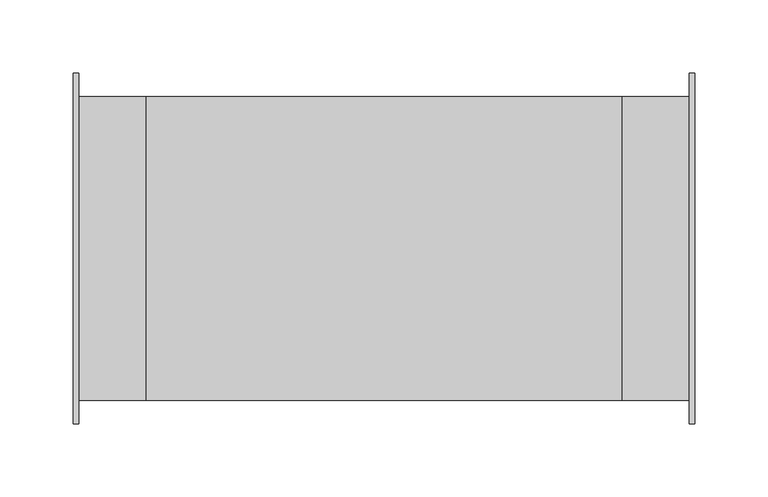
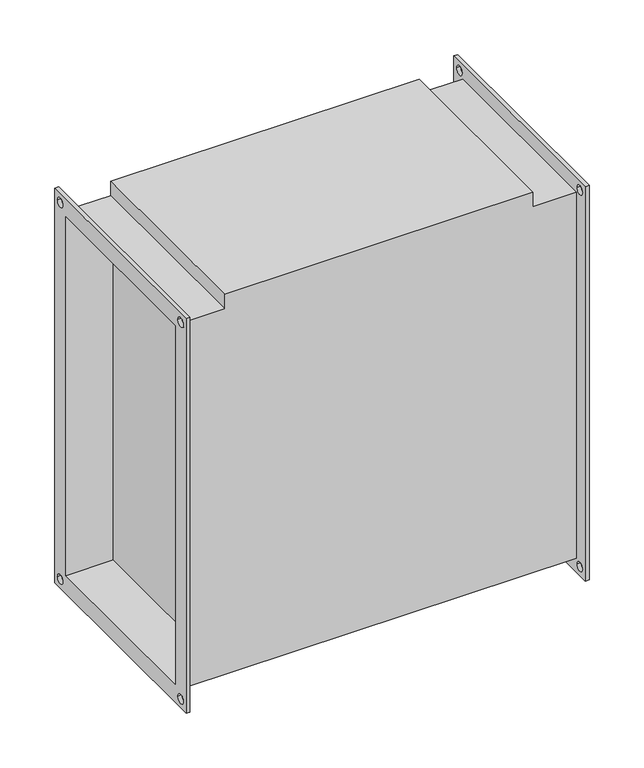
"""IFC4 building model written with IfcOpenShell, lengths in millimetres: proxy geometry, СВ_ВоздухонагревательЭлектрический_КанальныйПрямоугольный_200-1000_SPH-E : SPH-E-400x200/12."""

from ifc_helpers import new_model, si_unit, frame, origin, place, context, project, spatial, polyline, circle_curve, source, transform, mapped, element, save
from ifc_brep_helpers import plane_surface, revolved_surface, advanced_brep


def mechanical_equipment_13f1d598(model_context):
    return source(origin(), model_context, "Body", "AdvancedBrep", [
        advanced_brep(
        [(-162.5, -104.0, 204.0), (-208.5, -104.0, 204.0), (-208.5, -104.0, -204.0), (208.5, -104.0, -204.0), (208.5, -104.0, 204.0), (162.5, -104.0, 204.0), (162.5, -104.0, 220.0), (-162.5, -104.0, 220.0), (-208.5, 104.0, -204.0), (208.5, 104.0, -204.0), (-208.5, 104.0, 204.0), (-162.5, 104.0, 204.0), (-162.5, 104.0, 220.0), (162.5, 104.0, 220.0), (162.5, 104.0, 204.0), (208.5, 104.0, 204.0), (162.5, 100.0, -200.0), (162.5, 100.0, 200.0), (162.5, -100.0, 200.0), (162.5, -100.0, -200.0), (-162.5, -100.0, 200.0), (-162.5, 100.0, 200.0), (-162.5, 100.0, -200.0), (-162.5, -100.0, -200.0), (-212.5, -120.0, 220.0), (-212.5, 120.0, 220.0), (-212.5, 120.0, -220.0), (-212.5, -120.0, -220.0), (-212.5, -100.0, 200.0), (-212.5, -100.0, -200.0), (-212.5, 100.0, -200.0), (-212.5, 100.0, 200.0), (-212.5, 105.0, 210.0), (-212.5, 115.0, 210.0), (-212.5, -115.0, 210.0), (-212.5, -105.0, 210.0), (-212.5, -115.0, -210.0), (-212.5, -105.0, -210.0), (-212.5, 105.0, -210.0), (-212.5, 115.0, -210.0), (-208.5, -120.0, 220.0), (-208.5, -120.0, -220.0), (-208.5, 120.0, -220.0), (-208.5, 120.0, 220.0), (-208.5, 115.0, 210.0), (-208.5, 105.0, 210.0), (-208.5, -105.0, 210.0), (-208.5, -115.0, 210.0), (-208.5, -105.0, -210.0), (-208.5, -115.0, -210.0), (-208.5, 115.0, -210.0), (-208.5, 105.0, -210.0), (208.5, 120.0, 220.0), (208.5, 120.0, -220.0), (208.5, -120.0, -220.0), (208.5, -120.0, 220.0), (208.5, 105.0, 210.0), (208.5, 115.0, 210.0), (208.5, -115.0, 210.0), (208.5, -105.0, 210.0), (208.5, -115.0, -210.0), (208.5, -105.0, -210.0), (208.5, 105.0, -210.0), (208.5, 115.0, -210.0), (212.5, 120.0, 220.0), (212.5, -120.0, 220.0), (212.5, -120.0, -220.0), (212.5, 120.0, -220.0), (212.5, 100.0, 200.0), (212.5, 100.0, -200.0), (212.5, -100.0, -200.0), (212.5, -100.0, 200.0), (212.5, 115.0, 210.0), (212.5, 105.0, 210.0), (212.5, -105.0, 210.0), (212.5, -115.0, 210.0), (212.5, -105.0, -210.0), (212.5, -115.0, -210.0), (212.5, 115.0, -210.0), (212.5, 105.0, -210.0)],
        [
            (0, 1),
            (1, 2),
            (2, 3),
            (3, 4),
            (4, 5),
            (5, 6),
            (6, 7),
            (7, 0),
            (2, 8),
            (8, 9),
            (9, 3),
            (10, 11),
            (11, 12),
            (12, 13),
            (13, 14),
            (14, 15),
            (15, 9),
            (8, 10),
            (0, 11),
            (10, 1),
            (13, 6),
            (5, 14),
            (16, 17),
            (17, 18),
            (18, 19),
            (19, 16),
            (7, 12),
            (20, 21),
            (21, 22),
            (22, 23),
            (23, 20),
            (4, 15),
            (24, 25),
            (25, 26),
            (26, 27),
            (27, 24),
            (28, 29),
            (29, 30),
            (30, 31),
            (31, 28),
            (32, 33, circle_curve(frame((-212.5, 110.0, 210.0), z_axis=(1.0, 0.0, 0.0), x_axis=(0.0, 1.0, 0.0)), 5.0)),
            (33, 32, circle_curve(frame((-212.5, 110.0, 210.0), z_axis=(1.0, 0.0, 0.0), x_axis=(0.0, 1.0, 0.0)), 5.0)),
            (34, 35, circle_curve(frame((-212.5, -110.0, 210.0), z_axis=(1.0, 0.0, 0.0), x_axis=(0.0, 1.0, 0.0)), 5.0)),
            (35, 34, circle_curve(frame((-212.5, -110.0, 210.0), z_axis=(1.0, 0.0, 0.0), x_axis=(0.0, 1.0, 0.0)), 5.0)),
            (36, 37, circle_curve(frame((-212.5, -110.0, -210.0), z_axis=(1.0, 0.0, 0.0), x_axis=(0.0, 1.0, 0.0)), 5.0)),
            (37, 36, circle_curve(frame((-212.5, -110.0, -210.0), z_axis=(1.0, 0.0, 0.0), x_axis=(0.0, 1.0, 0.0)), 5.0)),
            (38, 39, circle_curve(frame((-212.5, 110.0, -210.0), z_axis=(1.0, 0.0, 0.0), x_axis=(0.0, 1.0, 0.0)), 5.0)),
            (39, 38, circle_curve(frame((-212.5, 110.0, -210.0), z_axis=(1.0, 0.0, 0.0), x_axis=(0.0, 1.0, 0.0)), 5.0)),
            (40, 41),
            (41, 42),
            (42, 43),
            (43, 40),
            (44, 45, circle_curve(frame((-208.5, 110.0, 210.0), z_axis=(-1.0, 0.0, 0.0), x_axis=(0.0, 1.0, 0.0)), 5.0)),
            (45, 44, circle_curve(frame((-208.5, 110.0, 210.0), z_axis=(-1.0, 0.0, 0.0), x_axis=(0.0, 1.0, 0.0)), 5.0)),
            (46, 47, circle_curve(frame((-208.5, -110.0, 210.0), z_axis=(-1.0, 0.0, 0.0), x_axis=(0.0, 1.0, 0.0)), 5.0)),
            (47, 46, circle_curve(frame((-208.5, -110.0, 210.0), z_axis=(-1.0, 0.0, 0.0), x_axis=(0.0, 1.0, 0.0)), 5.0)),
            (48, 49, circle_curve(frame((-208.5, -110.0, -210.0), z_axis=(-1.0, 0.0, 0.0), x_axis=(0.0, 1.0, 0.0)), 5.0)),
            (49, 48, circle_curve(frame((-208.5, -110.0, -210.0), z_axis=(-1.0, 0.0, 0.0), x_axis=(0.0, 1.0, 0.0)), 5.0)),
            (50, 51, circle_curve(frame((-208.5, 110.0, -210.0), z_axis=(-1.0, 0.0, 0.0), x_axis=(0.0, 1.0, 0.0)), 5.0)),
            (51, 50, circle_curve(frame((-208.5, 110.0, -210.0), z_axis=(-1.0, 0.0, 0.0), x_axis=(0.0, 1.0, 0.0)), 5.0)),
            (27, 41),
            (40, 24),
            (26, 42),
            (25, 43),
            (52, 53),
            (53, 54),
            (54, 55),
            (55, 52),
            (56, 57, circle_curve(frame((208.5, 110.0, 210.0), z_axis=(1.0, 0.0, 0.0), x_axis=(0.0, 1.0, 0.0)), 5.0)),
            (57, 56, circle_curve(frame((208.5, 110.0, 210.0), z_axis=(1.0, 0.0, 0.0), x_axis=(0.0, 1.0, 0.0)), 5.0)),
            (58, 59, circle_curve(frame((208.5, -110.0, 210.0), z_axis=(1.0, 0.0, 0.0), x_axis=(0.0, 1.0, 0.0)), 5.0)),
            (59, 58, circle_curve(frame((208.5, -110.0, 210.0), z_axis=(1.0, 0.0, 0.0), x_axis=(0.0, 1.0, 0.0)), 5.0)),
            (60, 61, circle_curve(frame((208.5, -110.0, -210.0), z_axis=(1.0, 0.0, 0.0), x_axis=(0.0, 1.0, 0.0)), 5.0)),
            (61, 60, circle_curve(frame((208.5, -110.0, -210.0), z_axis=(1.0, 0.0, 0.0), x_axis=(0.0, 1.0, 0.0)), 5.0)),
            (62, 63, circle_curve(frame((208.5, 110.0, -210.0), z_axis=(1.0, 0.0, 0.0), x_axis=(0.0, 1.0, 0.0)), 5.0)),
            (63, 62, circle_curve(frame((208.5, 110.0, -210.0), z_axis=(1.0, 0.0, 0.0), x_axis=(0.0, 1.0, 0.0)), 5.0)),
            (64, 65),
            (65, 66),
            (66, 67),
            (67, 64),
            (68, 69),
            (69, 70),
            (70, 71),
            (71, 68),
            (72, 73, circle_curve(frame((212.5, 110.0, 210.0), z_axis=(-1.0, 0.0, 0.0), x_axis=(0.0, 1.0, 0.0)), 5.0)),
            (73, 72, circle_curve(frame((212.5, 110.0, 210.0), z_axis=(-1.0, 0.0, 0.0), x_axis=(0.0, 1.0, 0.0)), 5.0)),
            (74, 75, circle_curve(frame((212.5, -110.0, 210.0), z_axis=(-1.0, 0.0, 0.0), x_axis=(0.0, 1.0, 0.0)), 5.0)),
            (75, 74, circle_curve(frame((212.5, -110.0, 210.0), z_axis=(-1.0, 0.0, 0.0), x_axis=(0.0, 1.0, 0.0)), 5.0)),
            (76, 77, circle_curve(frame((212.5, -110.0, -210.0), z_axis=(-1.0, 0.0, 0.0), x_axis=(0.0, 1.0, 0.0)), 5.0)),
            (77, 76, circle_curve(frame((212.5, -110.0, -210.0), z_axis=(-1.0, 0.0, 0.0), x_axis=(0.0, 1.0, 0.0)), 5.0)),
            (78, 79, circle_curve(frame((212.5, 110.0, -210.0), z_axis=(-1.0, 0.0, 0.0), x_axis=(0.0, 1.0, 0.0)), 5.0)),
            (79, 78, circle_curve(frame((212.5, 110.0, -210.0), z_axis=(-1.0, 0.0, 0.0), x_axis=(0.0, 1.0, 0.0)), 5.0)),
            (55, 65),
            (64, 52),
            (54, 66),
            (53, 67),
            (31, 21),
            (20, 28),
            (30, 22),
            (29, 23),
            (68, 17),
            (16, 69),
            (19, 70),
            (18, 71),
            (32, 45),
            (44, 33),
            (56, 73),
            (72, 57),
            (34, 47),
            (46, 35),
            (58, 75),
            (74, 59),
            (36, 49),
            (48, 37),
            (60, 77),
            (76, 61),
            (38, 51),
            (50, 39),
            (62, 79),
            (78, 63),
        ],
        [
            plane_surface(frame((-162.5, -104.0, 204.0), z_axis=(0.0, -1.0, 0.0), x_axis=(-1.0, 0.0, 0.0))),
            plane_surface(frame((-162.5, -104.0, -204.0), z_axis=(0.0, 0.0, -1.0), x_axis=(-1.0, 0.0, 0.0))),
            plane_surface(frame((-162.5, 104.0, -204.0), z_axis=(0.0, 1.0, 0.0), x_axis=(-1.0, 0.0, 0.0))),
            plane_surface(frame((-162.5, 104.0, 204.0), z_axis=(0.0, 0.0, 1.0), x_axis=(-1.0, 0.0, 0.0))),
            plane_surface(frame((162.5, -104.0, 220.0), z_axis=(1.0, 0.0, 0.0), x_axis=(0.0, 0.0, -1.0))),
            plane_surface(frame((-162.5, -104.0, 220.0), z_axis=(-1.0, 0.0, 0.0), x_axis=(0.0, 0.0, 1.0))),
            plane_surface(frame((162.5, 104.0, 220.0), z_axis=(0.0, 0.0, 1.0), x_axis=(-1.0, 0.0, 0.0))),
            plane_surface(frame((208.5, 104.0, 204.0), z_axis=(0.0, 0.0, 1.0), x_axis=(-1.0, 0.0, 0.0))),
            plane_surface(frame((-212.5, -120.0, 220.0), z_axis=(-1.0, 0.0, 0.0), x_axis=(0.0, 0.0, 1.0))),
            plane_surface(frame((-208.5, -120.0, 220.0), z_axis=(1.0, 0.0, 0.0), x_axis=(0.0, 0.0, -1.0))),
            plane_surface(frame((-208.5, -120.0, 220.0), z_axis=(0.0, -1.0, 0.0), x_axis=(-1.0, 0.0, 0.0))),
            plane_surface(frame((-208.5, -120.0, -220.0), z_axis=(0.0, 0.0, -1.0), x_axis=(-1.0, 0.0, 0.0))),
            plane_surface(frame((-208.5, 120.0, -220.0), z_axis=(0.0, 1.0, 0.0), x_axis=(-1.0, 0.0, 0.0))),
            plane_surface(frame((-208.5, 120.0, 220.0), z_axis=(0.0, 0.0, 1.0), x_axis=(-1.0, 0.0, 0.0))),
            plane_surface(frame((208.5, 100.0, -200.0), z_axis=(-1.0, 0.0, 0.0), x_axis=(0.0, 0.0, 1.0))),
            plane_surface(frame((212.5, 100.0, -200.0), z_axis=(1.0, 0.0, 0.0), x_axis=(0.0, 0.0, -1.0))),
            plane_surface(frame((212.5, 120.0, 220.0), z_axis=(0.0, 0.0, 1.0), x_axis=(-1.0, 0.0, 0.0))),
            plane_surface(frame((212.5, -120.0, 220.0), z_axis=(0.0, -1.0, 0.0), x_axis=(-1.0, 0.0, 0.0))),
            plane_surface(frame((212.5, -120.0, -220.0), z_axis=(0.0, 0.0, -1.0), x_axis=(-1.0, 0.0, 0.0))),
            plane_surface(frame((212.5, 120.0, -220.0), z_axis=(0.0, 1.0, 0.0), x_axis=(-1.0, 0.0, 0.0))),
            plane_surface(frame((-208.5, -100.0, 200.0), z_axis=(0.0, 0.0, -1.0), x_axis=(-1.0, 0.0, 0.0))),
            plane_surface(frame((-208.5, 100.0, 200.0), z_axis=(0.0, -1.0, 0.0), x_axis=(-1.0, 0.0, 0.0))),
            plane_surface(frame((-208.5, 100.0, -200.0), z_axis=(0.0, 0.0, 1.0), x_axis=(-1.0, 0.0, 0.0))),
            plane_surface(frame((-208.5, -100.0, -200.0), z_axis=(0.0, 1.0, 0.0), x_axis=(-1.0, 0.0, 0.0))),
            plane_surface(frame((212.5, 100.0, 200.0), z_axis=(0.0, -1.0, 0.0), x_axis=(-1.0, 0.0, 0.0))),
            plane_surface(frame((212.5, 100.0, -200.0), z_axis=(0.0, 0.0, 1.0), x_axis=(-1.0, 0.0, 0.0))),
            plane_surface(frame((212.5, -100.0, -200.0), z_axis=(0.0, 1.0, 0.0), x_axis=(-1.0, 0.0, 0.0))),
            plane_surface(frame((212.5, -100.0, 200.0), z_axis=(0.0, 0.0, -1.0), x_axis=(-1.0, 0.0, 0.0))),
            revolved_surface(polyline([(-208.5, 115.0, 210.0), (-212.5, 115.0, 210.0)]), (-212.5, 110.0, 210.0), (1.0, 0.0, 0.0)),
            revolved_surface(polyline([(212.5, 115.0, 210.0), (208.5, 115.0, 210.0)]), (-212.5, 110.0, 210.0), (1.0, 0.0, 0.0)),
            revolved_surface(polyline([(-208.5, -105.0, 210.0), (-212.5, -105.0, 210.0)]), (0.0, -110.0, 210.0), (1.0, 0.0, 0.0)),
            revolved_surface(polyline([(212.5, -105.0, 210.0), (208.5, -105.0, 210.0)]), (0.0, -110.0, 210.0), (1.0, 0.0, 0.0)),
            revolved_surface(polyline([(-208.5, -105.0, -210.0), (-212.5, -105.0, -210.0)]), (0.0, -110.0, -210.0), (1.0, 0.0, 0.0)),
            revolved_surface(polyline([(212.5, -105.0, -210.0), (208.5, -105.0, -210.0)]), (0.0, -110.0, -210.0), (1.0, 0.0, 0.0)),
            revolved_surface(polyline([(-208.5, 115.0, -210.0), (-212.5, 115.0, -210.0)]), (0.0, 110.0, -210.0), (1.0, 0.0, 0.0)),
            revolved_surface(polyline([(212.5, 115.0, -210.0), (208.5, 115.0, -210.0)]), (0.0, 110.0, -210.0), (1.0, 0.0, 0.0)),
        ],
        [
            (0, [[1, 2, 3, 4, 5, 6, 7, 8]]),
            (1, [[-3, 9, 10, 11]]),
            (2, [[12, 13, 14, 15, 16, 17, -10, 18]]),
            (3, [[-1, 19, -12, 20]]),
            (4, [[21, -6, 22, -15]]),
            (4, [[23, 24, 25, 26]]),
            (5, [[27, -13, -19, -8]]),
            (5, [[28, 29, 30, 31]]),
            (6, [[-21, -14, -27, -7]]),
            (7, [[-5, 32, -16, -22]]),
            (8, [[33, 34, 35, 36], [37, 38, 39, 40], [41, 42], [43, 44], [45, 46], [47, 48]]),
            (9, [[49, 50, 51, 52], [-2, -20, -18, -9], [53, 54], [55, 56], [57, 58], [59, 60]]),
            (10, [[-36, 61, -49, 62]]),
            (11, [[-35, 63, -50, -61]]),
            (12, [[-34, 64, -51, -63]]),
            (13, [[-33, -62, -52, -64]]),
            (14, [[65, 66, 67, 68], [-4, -11, -17, -32], [69, 70], [71, 72], [73, 74], [75, 76]]),
            (15, [[77, 78, 79, 80], [81, 82, 83, 84], [85, 86], [87, 88], [89, 90], [91, 92]]),
            (16, [[-68, 93, -77, 94]]),
            (17, [[-67, 95, -78, -93]]),
            (18, [[-66, 96, -79, -95]]),
            (19, [[-65, -94, -80, -96]]),
            (20, [[-40, 97, -28, 98]]),
            (21, [[-39, 99, -29, -97]]),
            (22, [[-38, 100, -30, -99]]),
            (23, [[-37, -98, -31, -100]]),
            (24, [[-81, 101, -23, 102]]),
            (25, [[-82, -102, -26, 103]]),
            (26, [[-83, -103, -25, 104]]),
            (27, [[-101, -84, -104, -24]]),
            (28, [[105, -53, 106, -41]]),
            (29, [[107, -85, 108, -69]]),
            (28, [[-105, -42, -106, -54]]),
            (29, [[-107, -70, -108, -86]]),
            (30, [[109, -55, 110, -43]]),
            (31, [[111, -87, 112, -71]]),
            (30, [[-109, -44, -110, -56]]),
            (31, [[-111, -72, -112, -88]]),
            (32, [[113, -57, 114, -45]]),
            (33, [[115, -89, 116, -73]]),
            (32, [[-113, -46, -114, -58]]),
            (33, [[-115, -74, -116, -90]]),
            (34, [[117, -59, 118, -47]]),
            (35, [[119, -91, 120, -75]]),
            (34, [[-117, -48, -118, -60]]),
            (35, [[-119, -76, -120, -92]]),
        ],
    ),
    ])


if __name__ == "__main__":
    model = new_model("IFC4")
    model_context = context("Model", 3, world=origin())
    ifc_project = project(units=[si_unit("LENGTHUNIT", "METRE", prefix="MILLI")], contexts=[model_context])
    site = spatial("IfcSite", under=ifc_project)
    building = spatial("IfcBuilding", under=site)
    placement = place(None, origin())
    mechanical_equipment_shape = mechanical_equipment_13f1d598(model_context)
    element("IfcBuildingElementProxy", 1, Name="СВ_ВоздухонагревательЭлектрический_КанальныйПрямоугольный_200-1000_SPH-E : SPH-E-400x200/12", ObjectType="СВ_ВоздухонагревательЭлектрический_КанальныйПрямоугольный_200-1000_SPH-E : SPH-E-400x200/12", at=placement, inside=building, context=model_context, shape_type="MappedRepresentation", body=[
        mapped(mechanical_equipment_shape, transform((0.0, 0.0, 0.0), x_axis=(1.0, 0.0, 0.0), y_axis=(0.0, 1.0, 0.0), z_axis=(0.0, 0.0, 1.0))),
    ])
    save(model, "model.ifc")
